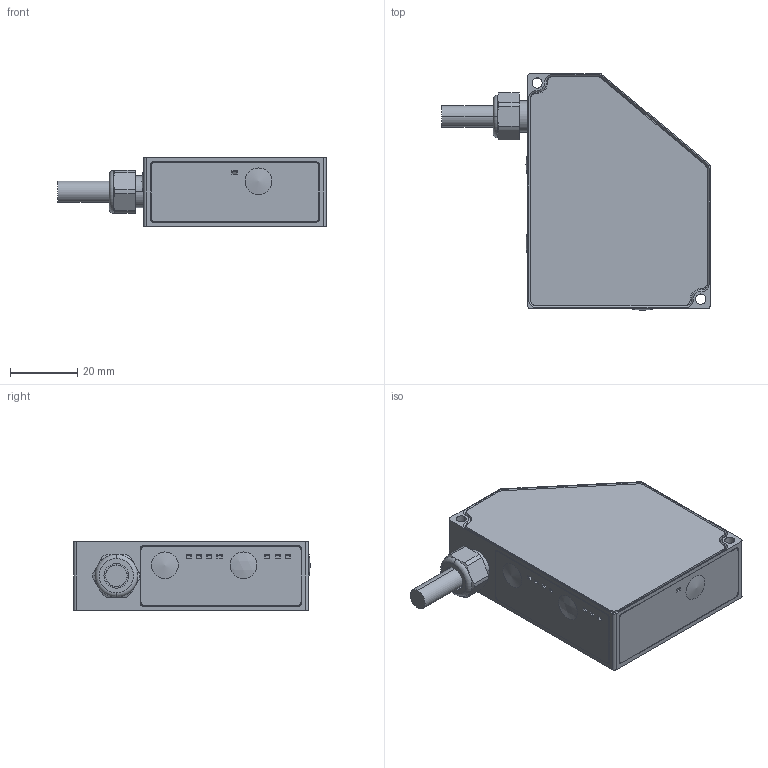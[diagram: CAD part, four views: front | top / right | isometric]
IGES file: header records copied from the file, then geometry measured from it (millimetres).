
Global section: file name: No Iges File Name specified; native system: AutoDesk Inventor R12.0; preprocessor: AutoDesk Inventor Iges Exporter R12.0; date: 20091105.120654; units: inch
Bounding box: 79.76 x 70.39 x 20.45 mm (x, y, z)
Volume: 21781.3 mm3; surface area: 30898 mm2
Topology: 9 solids, 9 shells, 433 faces, 1150 edges, 750 vertices
Faces by surface type: plane 208, revolution 118, cylinder 48, bspline 36, cone 20, torus 2, sphere 1
